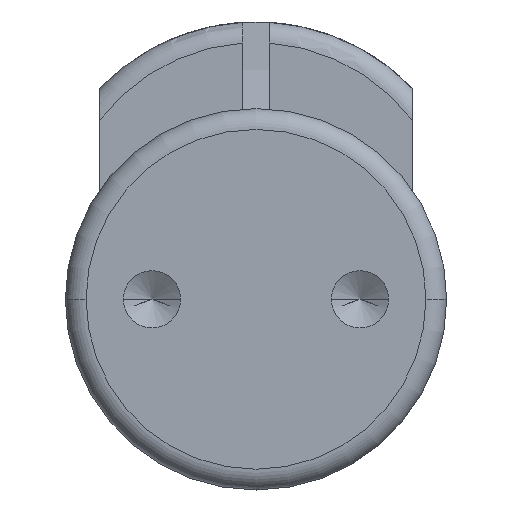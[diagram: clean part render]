
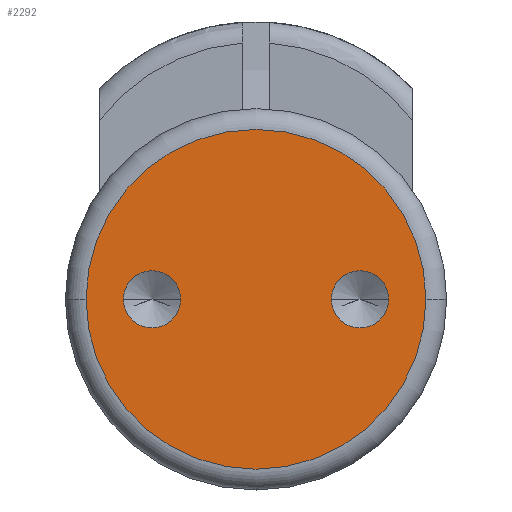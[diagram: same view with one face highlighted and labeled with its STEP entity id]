
A CAD part, front view. The second image highlights one B-rep face of the part: STEP entity #2292.
In plain terms, the highlighted planar face has unit normal (0, -1, 0) as drawn and (1, 0, 0) by its records, which use the part's own axes.
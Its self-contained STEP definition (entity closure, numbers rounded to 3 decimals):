
#11 = CIRCLE ( 'NONE', #2266, 9.8 ) ;
#26 = AXIS2_PLACEMENT_3D ( 'NONE', #2403, #435, #697 ) ;
#28 = EDGE_CURVE ( 'NONE', #1005, #1812, #1439, .T. ) ;
#233 = CIRCLE ( 'NONE', #2272, 1.65 ) ;
#387 = EDGE_CURVE ( 'NONE', #2610, #1744, #11, .T. ) ;
#391 = AXIS2_PLACEMENT_3D ( 'NONE', #1147, #2090, #885 ) ;
#399 = DIRECTION ( 'NONE',  ( -1., 0., 0. ) ) ;
#435 = DIRECTION ( 'NONE',  ( 1., 0., 0. ) ) ;
#461 = ORIENTED_EDGE ( 'NONE', *, *, #2111, .F. ) ;
#645 = DIRECTION ( 'NONE',  ( -1., 0., 0. ) ) ;
#697 = DIRECTION ( 'NONE',  ( 0., 0., -1. ) ) ;
#797 = ORIENTED_EDGE ( 'NONE', *, *, #902, .F. ) ;
#835 = FACE_OUTER_BOUND ( 'NONE', #2507, .T. ) ;
#867 = CARTESIAN_POINT ( 'NONE',  ( 25., 0., 9.8 ) ) ;
#885 = DIRECTION ( 'NONE',  ( 0., 0., -1. ) ) ;
#902 = EDGE_CURVE ( 'NONE', #1744, #2610, #1865, .T. ) ;
#948 = DIRECTION ( 'NONE',  ( 1., 0., 0. ) ) ;
#956 = AXIS2_PLACEMENT_3D ( 'NONE', #3135, #399, #1358 ) ;
#958 = VERTEX_POINT ( 'NONE', #1711 ) ;
#983 = CARTESIAN_POINT ( 'NONE',  ( 25., 0., -4.35 ) ) ;
#989 = ORIENTED_EDGE ( 'NONE', *, *, #1252, .F. ) ;
#1005 = VERTEX_POINT ( 'NONE', #2193 ) ;
#1091 = CIRCLE ( 'NONE', #2724, 1.65 ) ;
#1129 = DIRECTION ( 'NONE',  ( 0., 0., 1. ) ) ;
#1140 = DIRECTION ( 'NONE',  ( -1., 0., 0. ) ) ;
#1147 = CARTESIAN_POINT ( 'NONE',  ( 25., 0., 6. ) ) ;
#1252 = EDGE_CURVE ( 'NONE', #2051, #958, #1091, .T. ) ;
#1343 = CARTESIAN_POINT ( 'NONE',  ( 25., 0., 7.65 ) ) ;
#1347 = CARTESIAN_POINT ( 'NONE',  ( 25., 0., 6. ) ) ;
#1358 = DIRECTION ( 'NONE',  ( 0., 0., 1. ) ) ;
#1384 = DIRECTION ( 'NONE',  ( 0., 0., -1. ) ) ;
#1431 = DIRECTION ( 'NONE',  ( 0., 0., 1. ) ) ;
#1439 = CIRCLE ( 'NONE', #26, 1.65 ) ;
#1622 = CARTESIAN_POINT ( 'NONE',  ( 25., 0., 0. ) ) ;
#1623 = FACE_BOUND ( 'NONE', #2954, .T. ) ;
#1711 = CARTESIAN_POINT ( 'NONE',  ( 25., 0., 4.35 ) ) ;
#1744 = VERTEX_POINT ( 'NONE', #867 ) ;
#1812 = VERTEX_POINT ( 'NONE', #983 ) ;
#1827 = PLANE ( 'NONE',  #956 ) ;
#1865 = CIRCLE ( 'NONE', #2288, 9.8 ) ;
#1987 = CARTESIAN_POINT ( 'NONE',  ( 25., 0., -6. ) ) ;
#2051 = VERTEX_POINT ( 'NONE', #1343 ) ;
#2061 = DIRECTION ( 'NONE',  ( 1., 0., 0. ) ) ;
#2090 = DIRECTION ( 'NONE',  ( 1., 0., 0. ) ) ;
#2106 = CIRCLE ( 'NONE', #391, 1.65 ) ;
#2111 = EDGE_CURVE ( 'NONE', #1812, #1005, #233, .T. ) ;
#2193 = CARTESIAN_POINT ( 'NONE',  ( 25., 0., -7.65 ) ) ;
#2266 = AXIS2_PLACEMENT_3D ( 'NONE', #1622, #645, #1129 ) ;
#2272 = AXIS2_PLACEMENT_3D ( 'NONE', #1987, #948, #3233 ) ;
#2274 = EDGE_CURVE ( 'NONE', #958, #2051, #2106, .T. ) ;
#2288 = AXIS2_PLACEMENT_3D ( 'NONE', #2358, #1140, #1431 ) ;
#2292 = ADVANCED_FACE ( 'NONE', ( #1623, #2635, #835 ), #1827, .F. ) ;
#2358 = CARTESIAN_POINT ( 'NONE',  ( 25., 0., 0. ) ) ;
#2403 = CARTESIAN_POINT ( 'NONE',  ( 25., 0., -6. ) ) ;
#2507 = EDGE_LOOP ( 'NONE', ( #797, #3205 ) ) ;
#2610 = VERTEX_POINT ( 'NONE', #2657 ) ;
#2635 = FACE_BOUND ( 'NONE', #2817, .T. ) ;
#2657 = CARTESIAN_POINT ( 'NONE',  ( 25., 0., -9.8 ) ) ;
#2708 = ORIENTED_EDGE ( 'NONE', *, *, #28, .F. ) ;
#2724 = AXIS2_PLACEMENT_3D ( 'NONE', #1347, #2061, #1384 ) ;
#2817 = EDGE_LOOP ( 'NONE', ( #2855, #989 ) ) ;
#2855 = ORIENTED_EDGE ( 'NONE', *, *, #2274, .F. ) ;
#2954 = EDGE_LOOP ( 'NONE', ( #2708, #461 ) ) ;
#3135 = CARTESIAN_POINT ( 'NONE',  ( 25., 9.8, 0. ) ) ;
#3205 = ORIENTED_EDGE ( 'NONE', *, *, #387, .F. ) ;
#3233 = DIRECTION ( 'NONE',  ( 0., 0., -1. ) ) ;
